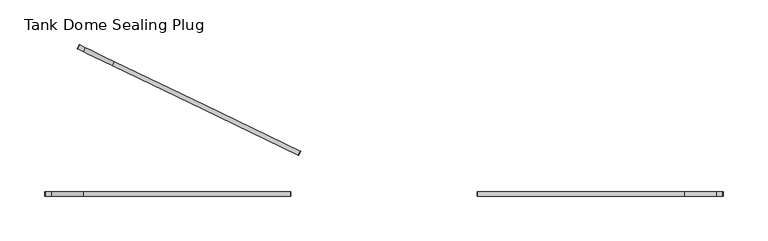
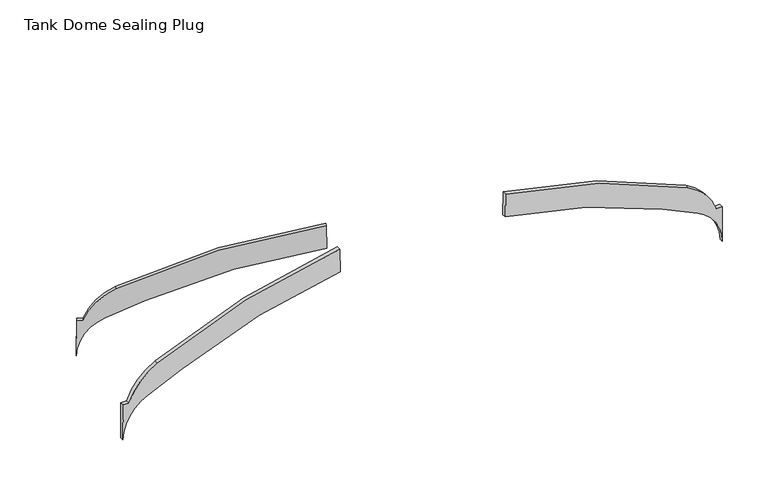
"""IFC4 building model written with IfcOpenShell, lengths in millimetres: proxy geometry, GRAF Tank Dome Sealing Plug : Tank Dome Sealing Plug."""

import ifcopenshell
import ifcopenshell.guid

model = None  # the IFC model being written
_history = None  # IfcOwnerHistory: only IFC2X3 demands one
_inside = {}  # id of a spatial element -> (the spatial element, [elements in it])
_under = {}  # id of a project, library or spatial element -> (it, [spatial elements below it])
_declared = {}  # id of a project -> (the project, [libraries it declares])
_typed = {}  # id of a type object -> (the type object, [elements of that type])
_made_of = {}  # id of a material, layer set ... -> (it, [elements and type objects made of it])


def new_model(schema):
    """Start an empty IFC model of exactly this schema.

    Asked for "IFC4X3", IfcOpenShell would pick the latest addendum, in which some entities
    have other attributes; the version numbers below select the first issue.
    IFC2X3 requires an IfcOwnerHistory on every rooted entity: one is made here for all.
    """
    global model, _history
    if schema == "IFC4X3":
        model = ifcopenshell.file(schema_version=(4, 3, 0, 0))
    else:
        model = ifcopenshell.file(schema=schema)
    _inside.clear()
    _under.clear()
    _declared.clear()
    _typed.clear()
    _made_of.clear()
    _history = None
    if model.schema == "IFC2X3":
        org = make("IfcOrganization", Name="unknown")
        user = make(
            "IfcPersonAndOrganization",
            ThePerson=make("IfcPerson", FamilyName="unknown"),
            TheOrganization=org,
        )
        app = make(
            "IfcApplication",
            ApplicationDeveloper=org,
            Version="unknown",
            ApplicationFullName="unknown",
            ApplicationIdentifier="unknown",
        )
        _history = make(
            "IfcOwnerHistory",
            OwningUser=user,
            OwningApplication=app,
            ChangeAction="ADDED",
            CreationDate=0,
        )
    return model


def make(cls, **values):
    """One entity of the class cls with the attributes given. An attribute that is None is left unset."""
    return model.create_entity(
        cls, **{name: value for name, value in values.items() if value is not None}
    )


def rooted(cls, **values):
    """An entity with a GlobalId (a new one), such as an element, a storey or a relation."""
    return make(cls, GlobalId=ifcopenshell.guid.new(), OwnerHistory=_history, **values)


def si_unit(unit_type, name, prefix=None):
    """IfcSIUnit, for example si_unit("LENGTHUNIT", "METRE", prefix="MILLI")."""
    return make("IfcSIUnit", UnitType=unit_type, Prefix=prefix, Name=name)


def assignment(units):
    """IfcUnitAssignment: the units of a project."""
    return None if units is None else make("IfcUnitAssignment", Units=units)


def point(xyz):
    """IfcCartesianPoint."""
    return None if xyz is None else make("IfcCartesianPoint", Coordinates=xyz)


def direction(xyz):
    """IfcDirection."""
    return None if xyz is None else make("IfcDirection", DirectionRatios=xyz)


def frame(location, z_axis=None, x_axis=None):
    """IfcAxis2Placement3D, a coordinate frame: its origin and axes. An axis left out is left unset."""
    return make(
        "IfcAxis2Placement3D",
        Location=point(location),
        Axis=direction(z_axis),
        RefDirection=direction(x_axis),
    )


def frame_2d(location, x_axis=None):
    """IfcAxis2Placement2D, a coordinate frame in the plane: its origin and x axis."""
    return make(
        "IfcAxis2Placement2D", Location=point(location), RefDirection=direction(x_axis)
    )


def origin():
    """The frame at (0, 0, 0) with its axes left unset."""
    return frame((0.0, 0.0, 0.0))


def place(relative_to, where):
    """IfcLocalPlacement: puts the frame where relative to a parent placement (None: the world)."""
    return make(
        "IfcLocalPlacement", PlacementRelTo=relative_to, RelativePlacement=where
    )


def context(
    kind, dimensions, precision=None, world=None, true_north=None, identifier=None
):
    """IfcGeometricRepresentationContext, for example the 3D "Model" context."""
    return make(
        "IfcGeometricRepresentationContext",
        ContextIdentifier=identifier,
        ContextType=kind,
        CoordinateSpaceDimension=dimensions,
        Precision=precision,
        WorldCoordinateSystem=world,
        TrueNorth=true_north,
    )


def project(units=None, contexts=None):
    """IfcProject with its units and contexts."""
    return rooted(
        "IfcProject",
        Name="project",
        RepresentationContexts=contexts,
        UnitsInContext=assignment(units),
    )


def spatial(cls, under=None, at=None, **own):
    """A site, building, storey or space (cls), placed at a placement, below another one or the project."""
    s = rooted(cls, ObjectPlacement=at, **own)
    if under is not None:
        _under.setdefault(under.id(), (under, []))[1].append(s)
    return s


def polyline(points):
    """IfcPolyline through the points."""
    return make("IfcPolyline", Points=[point(p) for p in points])


def circle_curve(where, radius):
    """IfcCircle in the frame where."""
    return make("IfcCircle", Position=where, Radius=radius)


def trimmed(basis, trim1, trim2, sense, master):
    """IfcTrimmedCurve: the piece of a basis curve between two trims."""
    return make(
        "IfcTrimmedCurve",
        BasisCurve=basis,
        Trim1=trim1,
        Trim2=trim2,
        SenseAgreement=sense,
        MasterRepresentation=master,
    )


def segment(curve, same_sense, transition):
    """IfcCompositeCurveSegment."""
    return make(
        "IfcCompositeCurveSegment",
        Transition=transition,
        SameSense=same_sense,
        ParentCurve=curve,
    )


def composite_curve(segments, self_intersect=None):
    """IfcCompositeCurve: segments joined end to end."""
    return make("IfcCompositeCurve", Segments=segments, SelfIntersect=self_intersect)


def outline(outer, holes=None, kind="AREA"):
    """IfcArbitraryClosedProfileDef: a profile drawn as a closed curve; with holes, ...WithVoids."""
    if holes is None:
        return make("IfcArbitraryClosedProfileDef", ProfileType=kind, OuterCurve=outer)
    return make(
        "IfcArbitraryProfileDefWithVoids",
        ProfileType=kind,
        OuterCurve=outer,
        InnerCurves=holes,
    )


def extrude(swept, where, along, depth):
    """IfcExtrudedAreaSolid: the profile swept, set in the frame where, extruded along a direction by depth."""
    return make(
        "IfcExtrudedAreaSolid",
        SweptArea=swept,
        Position=where,
        ExtrudedDirection=direction(along),
        Depth=depth,
    )


def shape(context_of_items, identifier, shape_type, items):
    """IfcShapeRepresentation: the items that make up one representation, for example the "Body"."""
    return make(
        "IfcShapeRepresentation",
        ContextOfItems=context_of_items,
        RepresentationIdentifier=identifier,
        RepresentationType=shape_type,
        Items=items,
    )


def source(mapping_origin, context_of_items, identifier, shape_type, items):
    """IfcRepresentationMap: a shape defined once, which mapped items show again and again."""
    return make(
        "IfcRepresentationMap",
        MappingOrigin=mapping_origin,
        MappedRepresentation=shape(context_of_items, identifier, shape_type, items),
    )


def transform(
    local_origin,
    x_axis=None,
    y_axis=None,
    z_axis=None,
    scale=None,
    scale2=None,
    scale3=None,
    uniform=True,
):
    """IfcCartesianTransformationOperator3D, or its non-uniform kind. x_axis, y_axis, z_axis: its Axis1, 2, 3."""
    if uniform:
        return make(
            "IfcCartesianTransformationOperator3D",
            Axis1=direction(x_axis),
            Axis2=direction(y_axis),
            LocalOrigin=point(local_origin),
            Scale=scale,
            Axis3=direction(z_axis),
        )
    return make(
        "IfcCartesianTransformationOperator3DnonUniform",
        Axis1=direction(x_axis),
        Axis2=direction(y_axis),
        LocalOrigin=point(local_origin),
        Scale=scale,
        Axis3=direction(z_axis),
        Scale2=scale2,
        Scale3=scale3,
    )


def mapped(mapping_source, mapping_target):
    """IfcMappedItem: shows the shape of a source again, moved by a transform."""
    return make(
        "IfcMappedItem", MappingSource=mapping_source, MappingTarget=mapping_target
    )


def made_of(thing, what):
    """Note that an element or type object is made of a material, layer set ...; save() writes the relation."""
    if what is not None:
        _made_of.setdefault(what.id(), (what, []))[1].append(thing)
    return thing


def element(
    cls,
    number,
    at=None,
    inside=None,
    cuts=None,
    type_object=None,
    material=None,
    context=None,
    identifier="Body",
    shape_type=None,
    held_by="IfcProductDefinitionShape",
    body=None,
    shapes=None,
    **own,
):
    """One element of the class cls, such as IfcWall. Its Tag is "e" and its number.

    at: its placement. inside: the storey or other place that contains it. cuts: it is an
    opening in that element (IfcRelVoidsElement). A single representation is given by context,
    identifier, shape_type and body (its items); several are given by shapes. held_by: the class
    of the entity that holds the representations. save() writes the other relations.
    """
    e = rooted(cls, Tag="e%d" % number, ObjectPlacement=at, **own)
    if body is not None:
        shapes = [shape(context, identifier, shape_type, body)]
    if shapes is not None:
        e.Representation = make(held_by, Representations=shapes)
    if inside is not None:
        _inside.setdefault(inside.id(), (inside, []))[1].append(e)
    if cuts is not None:
        rooted(
            "IfcRelVoidsElement", RelatingBuildingElement=cuts, RelatedOpeningElement=e
        )
    if type_object is not None:
        _typed.setdefault(type_object.id(), (type_object, []))[1].append(e)
    return made_of(e, material)


def aggregate(whole, parts):
    """IfcRelAggregates: a whole, such as a stair, and the parts it consists of."""
    return rooted("IfcRelAggregates", RelatingObject=whole, RelatedObjects=parts)


def save(model, path):
    """Write the relations noted so far, then the file.

    IfcRelAggregates (storeys below a building ...), IfcRelContainedInSpatialStructure (elements
    in a storey), IfcRelDefinesByType, IfcRelAssociatesMaterial and IfcRelDeclares: one each for
    every whole, place, type object, material and project.
    """
    for whole, parts in _under.values():
        aggregate(whole, parts)
    for where, things in _inside.values():
        rooted(
            "IfcRelContainedInSpatialStructure",
            RelatedElements=things,
            RelatingStructure=where,
        )
    for kind, things in _typed.values():
        rooted("IfcRelDefinesByType", RelatedObjects=things, RelatingType=kind)
    for what, things in _made_of.values():
        rooted("IfcRelAssociatesMaterial", RelatedObjects=things, RelatingMaterial=what)
    for by, libraries in _declared.values():
        rooted("IfcRelDeclares", RelatingContext=by, RelatedDefinitions=libraries)
    model.write(path)


def plane_surface(at):
    """IfcPlane: the flat surface through the origin of the frame at, square to its z axis."""
    return make("IfcPlane", Position=at)


def cylinder_surface(at, radius):
    """IfcCylindricalSurface: all points at the distance radius from the z axis of the frame at."""
    return make("IfcCylindricalSurface", Position=at, Radius=radius)


def revolved_surface(curve, axis_point, axis_direction):
    """IfcSurfaceOfRevolution: the curve turned about the line through axis_point along axis_direction."""
    return make(
        "IfcSurfaceOfRevolution",
        SweptCurve=make("IfcArbitraryOpenProfileDef", ProfileType="CURVE", Curve=curve),
        AxisPosition=make("IfcAxis1Placement", Location=point(axis_point), Axis=direction(axis_direction)),
    )


def advanced_brep(points, edges, surfaces, faces):
    """IfcAdvancedBrep: a solid bounded by faces that lie on surfaces and meet in shared edges.

    An edge is (start, end): straight between two places in points (the first is 0);
    or (start, end, curve); or (start, end, curve, False) where it runs against its curve.
    A face is (place in surfaces, loops), or (place, loops, False) where it looks against
    its surface's normal. A loop lists edges by number (the first is 1), with a minus sign
    where the edge is run from its end to its start. The first loop is the outer one.
    """
    corners = [point(p) for p in points]
    vertices = [make("IfcVertexPoint", VertexGeometry=c) for c in corners]
    made = []
    for start, end, *more in edges:
        made.append(
            make(
                "IfcEdgeCurve",
                EdgeStart=vertices[start],
                EdgeEnd=vertices[end],
                EdgeGeometry=more[0] if more else make("IfcPolyline", Points=[corners[start], corners[end]]),
                SameSense=more[1] if len(more) > 1 else True,
            )
        )
    hull = []
    for where, loops, *sense in faces:
        bounds = []
        for j, loop in enumerate(loops):
            ring = [make("IfcOrientedEdge", EdgeElement=made[abs(k) - 1], Orientation=k > 0) for k in loop]
            bounds.append(
                make(
                    "IfcFaceOuterBound" if j == 0 else "IfcFaceBound",
                    Bound=make("IfcEdgeLoop", EdgeList=ring),
                    Orientation=True,
                )
            )
        hull.append(make("IfcAdvancedFace", Bounds=bounds, FaceSurface=surfaces[where], SameSense=sense[0] if sense else True))
    return make("IfcAdvancedBrep", Outer=make("IfcClosedShell", CfsFaces=hull))


def tank_dome_sealing_plug_3985acf3(model_context):
    return source(origin(), model_context, "Body", "SolidModel", [
        advanced_brep(
        [(-342.9926074, 162.4017435, -46.6511681), (-314.6485257, 148.7519531, 2.1645092), (-275.2364868, 129.7721156, 22.5627007), (-95.211307, 43.0765582, 82.4012904), (-95.6867721, 43.3055302, 112.6347217), (-303.6156942, 143.4388215, 40.6546094), (-336.0797561, 159.0726898, 0.0210941), (-342.5522419, 162.1896747, 0.0210941), (-340.8231886, 166.9065878, -46.6511681), (-340.3828232, 166.694519, 0.0210941), (-333.9103374, 163.5775341, 0.0210941), (-301.4462755, 147.9436659, 40.6546094), (-93.5173534, 47.8103745, 112.6347217), (-93.0418883, 47.5814025, 82.4012904), (-273.0670681, 134.2769599, 22.5627007), (-312.479107, 153.2567975, 2.1645092)],
        [
            (0, 1, circle_curve(frame((-293.8999232, 138.7599528, -47.221794), z_axis=(0.4338837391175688, 0.900968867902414, 0.0), x_axis=(0.900968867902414, -0.4338837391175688, 0.0)), 54.4917565)),
            (1, 2),
            (2, 3, circle_curve(frame((-1.0850411, -2.2522624, -629.9789059), z_axis=(0.4338837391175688, 0.900968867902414, 0.0), x_axis=(0.900968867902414, -0.4338837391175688, 0.0)), 720.0)),
            (3, 4),
            (4, 5, circle_curve(frame((-1.085041, -2.2522625, -629.9789059), z_axis=(-0.4338837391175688, -0.900968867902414, 0.0), x_axis=(-0.900968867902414, 0.4338837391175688, 0.0)), 750.0)),
            (5, 6, circle_curve(frame((-274.1693773, 129.2582227, -24.6203861), z_axis=(-0.4338837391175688, -0.900968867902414, 0.0), x_axis=(-0.900968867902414, 0.4338837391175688, 0.0)), 73.0)),
            (6, 7),
            (7, 0),
            (8, 9),
            (9, 10),
            (10, 11, circle_curve(frame((-271.9999586, 133.763067, -24.6203861), z_axis=(0.4338837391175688, 0.900968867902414, 0.0), x_axis=(-0.900968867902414, 0.4338837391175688, 0.0)), 73.0)),
            (11, 12, circle_curve(frame((1.0843777, 2.2525819, -629.9789059), z_axis=(0.4338837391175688, 0.900968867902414, 0.0), x_axis=(-0.900968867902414, 0.4338837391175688, 0.0)), 750.0)),
            (12, 13),
            (13, 14, circle_curve(frame((1.0843776, 2.2525819, -629.9789059), z_axis=(-0.4338837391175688, -0.900968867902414, 0.0), x_axis=(0.900968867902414, -0.4338837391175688, 0.0)), 720.0)),
            (14, 15),
            (15, 8, circle_curve(frame((-291.7305045, 143.2647971, -47.221794), z_axis=(-0.4338837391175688, -0.900968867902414, 0.0), x_axis=(0.900968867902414, -0.4338837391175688, 0.0)), 54.4917565)),
            (0, 8),
            (15, 1),
            (14, 2),
            (13, 3),
            (12, 4),
            (11, 5),
            (10, 6),
            (9, 7),
        ],
        [
            plane_surface(frame((-244.804547, 115.1168657, -47.221794), z_axis=(-0.4338837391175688, -0.900968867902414, 0.0), x_axis=(0.0, 0.0, -1.0))),
            plane_surface(frame((-242.6351283, 119.6217101, -47.221794), z_axis=(0.4338837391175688, 0.900968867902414, 0.0), x_axis=(0.0, 0.0, 1.0))),
            revolved_surface(polyline([(-242.6351283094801, 119.62171009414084, -47.221794), (-244.80454703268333, 115.11686569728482, -47.221794)]), (-291.7305045, 143.2647971, -47.221794), (0.4338837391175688, 0.900968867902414, 0.0)),
            plane_surface(frame((-314.6485257, 148.7519531, 2.1645092), z_axis=(0.38076589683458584, -0.18336719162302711, -0.9063077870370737), x_axis=(0.4338837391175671, 0.9009688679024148, 0.0))),
            revolved_surface(polyline([(649.7819625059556, -310.14371023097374, -629.9789059), (647.6125438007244, -314.64855459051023, -629.9789059)]), (1.0843776, 2.2525819, -629.9789059), (0.4338837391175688, 0.900968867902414, 0.0)),
            plane_surface(frame((-95.211307, 43.0765582, 82.4012904), z_axis=(0.9008316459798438, -0.4338176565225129, 0.017452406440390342), x_axis=(0.4338837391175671, 0.9009688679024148, 0.0))),
            cylinder_surface(frame((1.0843777, 2.2525819, -629.9789059), z_axis=(-0.4338837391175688, -0.900968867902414, 0.0), x_axis=(-0.900968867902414, 0.4338837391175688, 0.0)), 750.0),
            cylinder_surface(frame((-271.9999586, 133.763067, -24.6203861), z_axis=(-0.4338837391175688, -0.900968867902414, 0.0), x_axis=(-0.900968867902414, 0.4338837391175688, 0.0)), 73.0),
            plane_surface(frame((-336.0797561, 159.0726898, 0.0210941), z_axis=(0.0, 0.0, 1.0), x_axis=(0.4338837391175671, 0.9009688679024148, 0.0))),
            plane_surface(frame((-342.5522419, 162.1896747, 0.0210941), z_axis=(-0.900919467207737, 0.43385994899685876, 0.010471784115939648), x_axis=(0.4338837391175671, 0.9009688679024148, 0.0))),
        ],
        [
            (0, [[1, 2, 3, 4, 5, 6, 7, 8]]),
            (1, [[9, 10, 11, 12, 13, 14, 15, 16]]),
            (2, [[-1, 17, -16, 18]]),
            (3, [[-2, -18, -15, 19]]),
            (4, [[-3, -19, -14, 20]]),
            (5, [[-4, -20, -13, 21]]),
            (6, [[-5, -21, -12, 22]]),
            (7, [[-6, -22, -11, 23]]),
            (8, [[-7, -23, -10, 24]]),
            (9, [[-8, -24, -9, -17]]),
        ],
    ),
        extrude(outline(composite_curve([segment(trimmed(circle_curve(frame_2d((325.0003682, -47.221794)), 54.4917565), [point((379.4891369, -46.6511681))], [point((348.0295796, 2.1645092))], True, "CARTESIAN"), True, "CONTINUOUS"), segment(polyline([(348.0295796, 2.1645092), (304.2855167, 22.5627007)]), True, "CONTINUOUS"), segment(trimmed(circle_curve(frame_2d((0.0003682, -629.9789059)), 720.0), [point((304.2855167, 22.5627007))], [point((104.4726416, 82.4012904))], True, "CARTESIAN"), True, "CONTINUOUS"), segment(polyline([(104.4726416, 82.4012904), (105.0003681, 112.6347217)]), True, "CONTINUOUS"), segment(trimmed(circle_curve(frame_2d((0.0003681, -629.9789059)), 750.0), [point((105.0003681, 112.6347217))], [point((335.7840605, 40.6546094))], False, "CARTESIAN"), True, "CONTINUOUS"), segment(trimmed(circle_curve(frame_2d((303.1011144, -24.6203861)), 73.0), [point((335.7840605, 40.6546094))], [point((371.8164508, 0.0210941))], False, "CARTESIAN"), True, "CONTINUOUS"), segment(polyline([(371.8164508, 0.0210941), (379.0003681, 0.0210941), (379.4891369, -46.6511681)]), True, "CONTINUOUS")], self_intersect=False)), frame((0.0, 2.5, 0.0), z_axis=(0.0, -1.0, 0.0), x_axis=(1.0, 0.0, 0.0)), (0.0, 0.0, 1.0), 5.0),
        extrude(outline(composite_curve([segment(trimmed(circle_curve(frame_2d((-47.221794, -325.0003682)), 54.4917565), [point((-46.6511681, -379.4891369))], [point((2.1645092, -348.0295796))], True, "CARTESIAN"), True, "CONTINUOUS"), segment(polyline([(2.1645092, -348.0295796), (22.5627007, -304.2855167)]), True, "CONTINUOUS"), segment(trimmed(circle_curve(frame_2d((-629.9789059, -0.0003682)), 720.0), [point((22.5627007, -304.2855167))], [point((82.4012904, -104.4726416))], True, "CARTESIAN"), True, "CONTINUOUS"), segment(polyline([(82.4012904, -104.4726416), (112.6347217, -105.0003681)]), True, "CONTINUOUS"), segment(trimmed(circle_curve(frame_2d((-629.9789059, -0.0003681)), 750.0), [point((112.6347217, -105.0003681))], [point((40.6546094, -335.7840605))], False, "CARTESIAN"), True, "CONTINUOUS"), segment(trimmed(circle_curve(frame_2d((-24.6203861, -303.1011144)), 73.0), [point((40.6546094, -335.7840605))], [point((0.0210941, -371.8164508))], False, "CARTESIAN"), True, "CONTINUOUS"), segment(polyline([(0.0210941, -371.8164508), (0.0210941, -379.0003681), (-46.6511681, -379.4891369)]), True, "CONTINUOUS")], self_intersect=False)), frame((0.0, -2.5, 0.0), z_axis=(0.0, 1.0, 0.0), x_axis=(0.0, 0.0, 1.0)), (0.0, 0.0, 1.0), 5.0),
    ])


if __name__ == "__main__":
    model = new_model("IFC4")
    model_context = context("Model", 3, world=origin())
    ifc_project = project(units=[si_unit("LENGTHUNIT", "METRE", prefix="MILLI")], contexts=[model_context])
    site = spatial("IfcSite", under=ifc_project)
    building = spatial("IfcBuilding", under=site)
    placement = place(None, origin())
    tank_dome_sealing_plug_shape = tank_dome_sealing_plug_3985acf3(model_context)
    element("IfcBuildingElementProxy", 1, Name="GRAF Tank Dome Sealing Plug : Tank Dome Sealing Plug", ObjectType="GRAF Tank Dome Sealing Plug : Tank Dome Sealing Plug", at=placement, inside=building, context=model_context, shape_type="MappedRepresentation", body=[
        mapped(tank_dome_sealing_plug_shape, transform((0.0, 0.0, 0.0), x_axis=(1.0, 0.0, 0.0), y_axis=(0.0, 1.0, 0.0), z_axis=(0.0, 0.0, 1.0))),
    ])
    save(model, "model.ifc")
